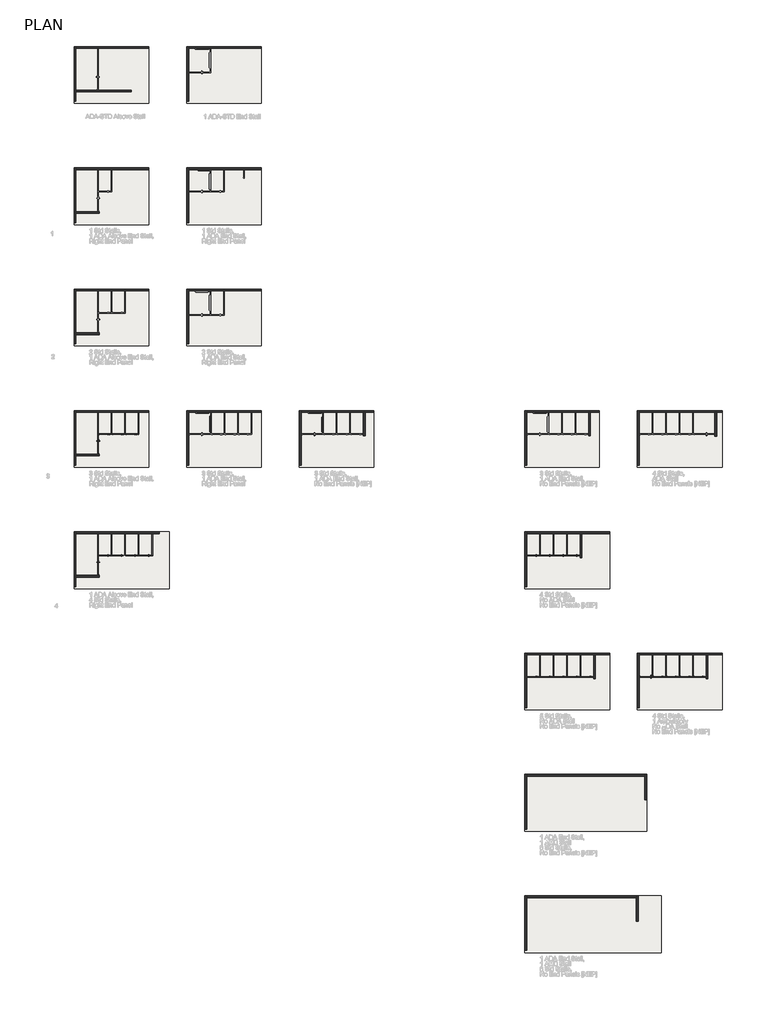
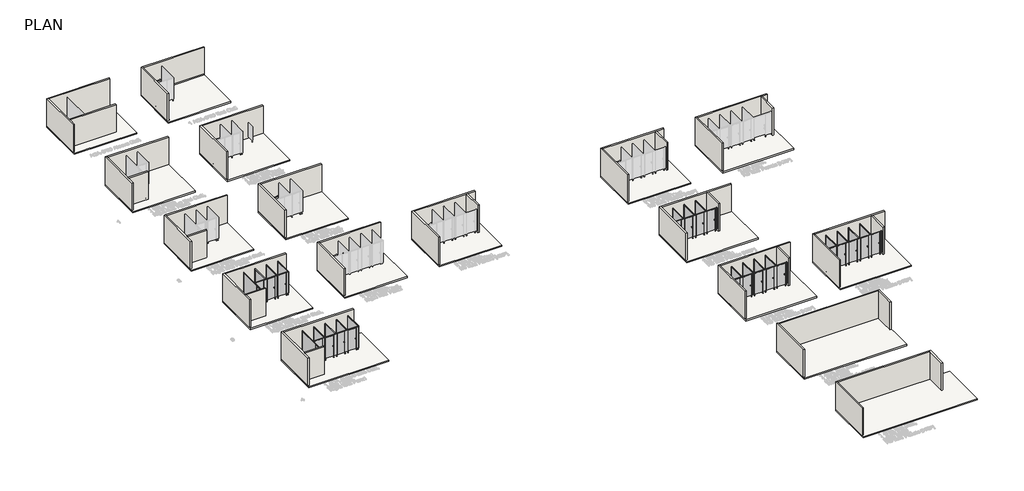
# One storey, part 1 of 21: 48 walls, 17 slabs, 9 proxies.
"""IFC4 building model written with IfcOpenShell, lengths in millimetres."""

from ifc_helpers import new_model, si_unit, frame, origin, origin_with_axes, place, context, project, spatial, polyline, outline, extrude, faceted_brep, transform, mapped, element, save
from components import specialty_equipment_0ea71b72, specialty_equipment_d2a740d9, specialty_equipment_41413af0, specialty_equipment_c0fd9598, specialty_equipment_607a9d4f, specialty_equipment_258c1c85, specialty_equipment_4d244adf, specialty_equipment_7b1527e2, specialty_equipment_daf9b19e, specialty_equipment_9ecc551c, specialty_equipment_231d2768, specialty_equipment_0bc7b9af, specialty_equipment_55b33e95, specialty_equipment_88d71848, specialty_equipment_0e989953, specialty_equipment_0aaabcd9, proxy_812_grab_bars1_cd5c3015, proxy_812_grab_bars1_bdd373ed, proxy_812_grab_bars1_ef4de83a, proxy_812_grab_bars1_6de8e9aa, cove_base_cove_base_009a1cfd

model = new_model("IFC4")

# Units and contexts
model_context = context("Model", 3, world=origin())
ifc_project = project(units=[si_unit("LENGTHUNIT", "METRE", prefix="MILLI")], contexts=[model_context])

# Site, building, storey
site = spatial("IfcSite", under=ifc_project)
building = spatial("IfcBuilding", under=site)
storey = spatial("IfcBuildingStorey", under=building, Name="PLAN", Elevation=0.0)

# Proxies
placement = place(None, origin())
specialty_equipment_shape = specialty_equipment_0ea71b72(model_context)
specialty_equipment_2_shape = specialty_equipment_d2a740d9(model_context)
specialty_equipment_3_shape = specialty_equipment_41413af0(model_context)
specialty_equipment_4_shape = specialty_equipment_c0fd9598(model_context)
element("IfcBuildingElementProxy", 1, Name="Partition_EuroStyle-Bradley_Corp-ADA_Alcove_4StandardStall-LOFT : Partition_EuroStyle-Bradley_Corp-ADA_Alcove_4StandardStall-LOFT", ObjectType="Partition_EuroStyle-Bradley_Corp-ADA_Alcove_4StandardStall-LOFT : Partition_EuroStyle-Bradley_Corp-ADA_Alcove_4StandardStall-LOFT", at=placement, inside=storey, context=model_context, shape_type="MappedRepresentation", body=[
    mapped(specialty_equipment_shape, transform((-22966.7331895, -384.5506848, 0.0), x_axis=(1.0, 0.0, 0.0), y_axis=(0.0, 1.0, 0.0), z_axis=(0.0, 0.0, 1.0))),
    mapped(specialty_equipment_2_shape, transform((-22966.7331895, -384.5506848, 0.0), x_axis=(1.0, 0.0, 0.0), y_axis=(0.0, 1.0, 0.0), z_axis=(0.0, 0.0, 1.0))),
    mapped(specialty_equipment_3_shape, transform((-22966.7331895, -384.5506848, 0.0), x_axis=(1.0, 0.0, 0.0), y_axis=(0.0, 1.0, 0.0), z_axis=(0.0, 0.0, 1.0))),
    mapped(specialty_equipment_4_shape, transform((-22966.7331895, -384.5506848, 0.0), x_axis=(1.0, 0.0, 0.0), y_axis=(0.0, 1.0, 0.0), z_axis=(0.0, 0.0, 1.0))),
])
specialty_equipment_5_shape = specialty_equipment_607a9d4f(model_context)
specialty_equipment_6_shape = specialty_equipment_258c1c85(model_context)
specialty_equipment_7_shape = specialty_equipment_4d244adf(model_context)
element("IfcBuildingElementProxy", 2, Name="Partition_EuroStyle-Bradley_Corp-4StandardStall-NEP-LOFT : Partition_EuroStyle-Bradley_Corp-4StandardStall-NEP-LOFT", ObjectType="Partition_EuroStyle-Bradley_Corp-4StandardStall-NEP-LOFT : Partition_EuroStyle-Bradley_Corp-4StandardStall-NEP-LOFT", at=placement, inside=storey, context=model_context, shape_type="MappedRepresentation", body=[
    mapped(specialty_equipment_5_shape, transform((8859.4668105, -384.5506848, 0.0), x_axis=(1.0, 0.0, 0.0), y_axis=(0.0, 1.0, 0.0), z_axis=(0.0, 0.0, 1.0))),
    mapped(specialty_equipment_6_shape, transform((8859.4668105, -384.5506848, 0.0), x_axis=(1.0, 0.0, 0.0), y_axis=(0.0, 1.0, 0.0), z_axis=(0.0, 0.0, 1.0))),
    mapped(specialty_equipment_7_shape, transform((8859.4668105, -384.5506848, 0.0), x_axis=(1.0, 0.0, 0.0), y_axis=(0.0, 1.0, 0.0), z_axis=(0.0, 0.0, 1.0))),
])
specialty_equipment_8_shape = specialty_equipment_7b1527e2(model_context)
specialty_equipment_9_shape = specialty_equipment_daf9b19e(model_context)
specialty_equipment_10_shape = specialty_equipment_9ecc551c(model_context)
element("IfcBuildingElementProxy", 3, Name="Partition_EuroStyle-Bradley_Corp-ADA_Alcove_3StandardStall-LOFT : Partition_EuroStyle-Bradley_Corp-ADA_Alcove_3StandardStall-LOFT", ObjectType="Partition_EuroStyle-Bradley_Corp-ADA_Alcove_3StandardStall-LOFT : Partition_EuroStyle-Bradley_Corp-ADA_Alcove_3StandardStall-LOFT", at=placement, inside=storey, context=model_context, shape_type="MappedRepresentation", body=[
    mapped(specialty_equipment_8_shape, transform((-22966.7331895, 8149.8493152, 0.0), x_axis=(1.0, 0.0, 0.0), y_axis=(0.0, 1.0, 0.0), z_axis=(0.0, 0.0, 1.0))),
    mapped(specialty_equipment_9_shape, transform((-22966.7331895, 8149.8493152, 0.0), x_axis=(1.0, 0.0, 0.0), y_axis=(0.0, 1.0, 0.0), z_axis=(0.0, 0.0, 1.0))),
    mapped(specialty_equipment_10_shape, transform((-22966.7331895, 8149.8493152, 0.0), x_axis=(1.0, 0.0, 0.0), y_axis=(0.0, 1.0, 0.0), z_axis=(0.0, 0.0, 1.0))),
])
specialty_equipment_11_shape = specialty_equipment_231d2768(model_context)
specialty_equipment_12_shape = specialty_equipment_0bc7b9af(model_context)
specialty_equipment_13_shape = specialty_equipment_55b33e95(model_context)
element("IfcBuildingElementProxy", 4, Name="Partition_EuroStyle-Bradley_Corp-5StandardStall-NEP-LOFT : Partition_EuroStyle-Bradley_Corp-5StandardStall-NEP-LOFT", ObjectType="Partition_EuroStyle-Bradley_Corp-5StandardStall-NEP-LOFT : Partition_EuroStyle-Bradley_Corp-5StandardStall-NEP-LOFT", at=placement, inside=storey, context=model_context, shape_type="MappedRepresentation", body=[
    mapped(specialty_equipment_11_shape, transform((8859.4668105, -8918.9506848, 0.0), x_axis=(1.0, 0.0, 0.0), y_axis=(0.0, 1.0, 0.0), z_axis=(0.0, 0.0, 1.0))),
    mapped(specialty_equipment_12_shape, transform((8859.4668105, -8918.9506848, 0.0), x_axis=(1.0, 0.0, 0.0), y_axis=(0.0, 1.0, 0.0), z_axis=(0.0, 0.0, 1.0))),
    mapped(specialty_equipment_13_shape, transform((8859.4668105, -8918.9506848, 0.0), x_axis=(1.0, 0.0, 0.0), y_axis=(0.0, 1.0, 0.0), z_axis=(0.0, 0.0, 1.0))),
])
specialty_equipment_14_shape = specialty_equipment_88d71848(model_context)
specialty_equipment_15_shape = specialty_equipment_0e989953(model_context)
specialty_equipment_16_shape = specialty_equipment_0aaabcd9(model_context)
element("IfcBuildingElementProxy", 5, Name="Partition_EuroStyle-Bradley_Corp-1AMB-4StandardStall-NEP-LOFT : Partition_EuroStyle-Bradley_Corp-1AMB-4StandardStall-NEP-LOFT", ObjectType="Partition_EuroStyle-Bradley_Corp-1AMB-4StandardStall-NEP-LOFT : Partition_EuroStyle-Bradley_Corp-1AMB-4StandardStall-NEP-LOFT", at=placement, inside=storey, context=model_context, shape_type="MappedRepresentation", body=[
    mapped(specialty_equipment_14_shape, transform((16784.2668105, -8918.9506848, 0.0), x_axis=(1.0, 0.0, 0.0), y_axis=(0.0, 1.0, 0.0), z_axis=(0.0, 0.0, 1.0))),
    mapped(specialty_equipment_15_shape, transform((16784.2668105, -8918.9506848, 0.0), x_axis=(1.0, 0.0, 0.0), y_axis=(0.0, 1.0, 0.0), z_axis=(0.0, 0.0, 1.0))),
    mapped(specialty_equipment_16_shape, transform((16784.2668105, -8918.9506848, 0.0), x_axis=(1.0, 0.0, 0.0), y_axis=(0.0, 1.0, 0.0), z_axis=(0.0, 0.0, 1.0))),
])
proxy_812_grab_bars1_shape = proxy_812_grab_bars1_cd5c3015(model_context)
element("IfcBuildingElementProxy", 6, Name="812_Grab_Bars1 : 8122-001420", ObjectType="812_Grab_Bars1 : 8122-001420", at=placement, inside=storey, context=model_context, shape_type="MappedRepresentation", body=[
    mapped(proxy_812_grab_bars1_shape, transform((-13492.5331895, 7367.2118152, 1431.925), x_axis=(0.0, -1.0, 0.0), y_axis=(0.0, 0.0, 1.0), z_axis=(-1.0, 0.0, 0.0))),
])
proxy_812_grab_bars1_2_shape = proxy_812_grab_bars1_bdd373ed(model_context)
element("IfcBuildingElementProxy", 7, Name="812_Grab_Bars1 : 8122-001180", ObjectType="812_Grab_Bars1 : 8122-001180", at=placement, inside=storey, context=model_context, shape_type="MappedRepresentation", body=[
    mapped(proxy_812_grab_bars1_2_shape, transform((-5593.1331895, 7695.8243152, 1163.6375), x_axis=(0.0, 0.0, 1.0), y_axis=(0.0, 1.0, 0.0), z_axis=(-1.0, 0.0, 0.0))),
])
proxy_812_grab_bars1_3_shape = proxy_812_grab_bars1_ef4de83a(model_context)
element("IfcBuildingElementProxy", 8, Name="812_Grab_Bars1 : 8122-001420", ObjectType="812_Grab_Bars1 : 8122-001420", at=placement, inside=storey, context=model_context, shape_type="MappedRepresentation", body=[
    mapped(proxy_812_grab_bars1_3_shape, transform((-5593.1331895, 7256.0868152, 1431.925), x_axis=(0.0, 1.0, 0.0), y_axis=(0.0, 0.0, -1.0), z_axis=(-1.0, 0.0, 0.0))),
])
proxy_812_grab_bars1_4_shape = proxy_812_grab_bars1_6de8e9aa(model_context)
element("IfcBuildingElementProxy", 9, Name="812_Grab_Bars1 : 8122-001180", ObjectType="812_Grab_Bars1 : 8122-001180", at=placement, inside=storey, context=model_context, shape_type="MappedRepresentation", body=[
    mapped(proxy_812_grab_bars1_4_shape, transform((-13492.5331895, 6785.9253451, 1163.6375), x_axis=(0.0, 0.0, 1.0), y_axis=(0.0, 1.0, 0.0), z_axis=(-1.0, 0.0, 0.0))),
])

# Slabs
element("IfcSlab", 10, ObjectType="LW Concrete on Metal Deck", at=placement, inside=storey, context=model_context, shape_type="SweptSolid", body=[
    extrude(outline(polyline([(-16384.9581895, -260.7256848), (-16384.9581895, -4252.3985382), (-23090.5581895, -4252.3985382), (-23090.5581895, -260.7256848), (-16384.9581895, -260.7256848)])), frame((0.0, 0.0, -104.775), z_axis=(0.0, 0.0, 1.0), x_axis=(1.0, 0.0, 0.0)), (0.0, 0.0, 1.0), 104.775),
])
element("IfcSlab", 11, ObjectType="LW Concrete on Metal Deck", at=placement, inside=storey, context=model_context, shape_type="SweptSolid", body=[
    extrude(outline(polyline([(-17847.8615108, 16808.0743152), (-17847.8615108, 12816.4014618), (-23090.5581895, 12816.4014618), (-23090.5581895, 16808.0743152), (-17847.8615108, 16808.0743152)])), frame((0.0, 0.0, -104.775), z_axis=(0.0, 0.0, 1.0), x_axis=(1.0, 0.0, 0.0)), (0.0, 0.0, 1.0), 104.775),
])
element("IfcSlab", 12, ObjectType="LW Concrete on Metal Deck", at=placement, inside=storey, context=model_context, shape_type="SweptSolid", body=[
    extrude(outline(polyline([(-9923.0615108, 16808.0743152), (-9923.0615108, 12816.4014618), (-15165.7581895, 12816.4014618), (-15165.7581895, 16808.0743152), (-9923.0615108, 16808.0743152)])), frame((0.0, 0.0, -104.775), z_axis=(0.0, 0.0, 1.0), x_axis=(1.0, 0.0, 0.0)), (0.0, 0.0, 1.0), 104.775),
])
element("IfcSlab", 13, ObjectType="LW Concrete on Metal Deck", at=placement, inside=storey, context=model_context, shape_type="SweptSolid", body=[
    extrude(outline(polyline([(-17847.8615108, 8273.6743152), (-17847.8615108, 4282.0014618), (-23090.5581895, 4282.0014618), (-23090.5581895, 8273.6743152), (-17847.8615108, 8273.6743152)])), frame((0.0, 0.0, -104.775), z_axis=(0.0, 0.0, 1.0), x_axis=(1.0, 0.0, 0.0)), (0.0, 0.0, 1.0), 104.775),
])
element("IfcSlab", 14, ObjectType="LW Concrete on Metal Deck", at=placement, inside=storey, context=model_context, shape_type="SweptSolid", body=[
    extrude(outline(polyline([(-9923.0615108, 8273.6743152), (-9923.0615108, 4282.0014618), (-15165.7581895, 4282.0014618), (-15165.7581895, 8273.6743152), (-9923.0615108, 8273.6743152)])), frame((0.0, 0.0, -104.775), z_axis=(0.0, 0.0, 1.0), x_axis=(1.0, 0.0, 0.0)), (0.0, 0.0, 1.0), 104.775),
])
element("IfcSlab", 15, ObjectType="LW Concrete on Metal Deck", at=placement, inside=storey, context=model_context, shape_type="SweptSolid", body=[
    extrude(outline(polyline([(-1998.2615108, 8273.6743152), (-1998.2615108, 4282.0014618), (-7240.9581895, 4282.0014618), (-7240.9581895, 8273.6743152), (-1998.2615108, 8273.6743152)])), frame((0.0, 0.0, -104.775), z_axis=(0.0, 0.0, 1.0), x_axis=(1.0, 0.0, 0.0)), (0.0, 0.0, 1.0), 104.775),
])
element("IfcSlab", 16, ObjectType="LW Concrete on Metal Deck", at=placement, inside=storey, context=model_context, shape_type="SweptSolid", body=[
    extrude(outline(polyline([(-9923.0615108, 25342.4743152), (-9923.0615108, 21350.8014618), (-15165.7581895, 21350.8014618), (-15165.7581895, 25342.4743152), (-9923.0615108, 25342.4743152)])), frame((0.0, 0.0, -104.775), z_axis=(0.0, 0.0, 1.0), x_axis=(1.0, 0.0, 0.0)), (0.0, 0.0, 1.0), 104.775),
])
element("IfcSlab", 17, ObjectType="LW Concrete on Metal Deck", at=placement, inside=storey, context=model_context, shape_type="SweptSolid", body=[
    extrude(outline(polyline([(-17847.8615108, 25342.4743152), (-17847.8615108, 21350.8014618), (-23090.5581895, 21350.8014618), (-23090.5581895, 25342.4743152), (-17847.8615108, 25342.4743152)])), frame((0.0, 0.0, -104.775), z_axis=(0.0, 0.0, 1.0), x_axis=(1.0, 0.0, 0.0)), (0.0, 0.0, 1.0), 104.775),
])
element("IfcSlab", 18, ObjectType="LW Concrete on Metal Deck", at=placement, inside=storey, context=model_context, shape_type="SweptSolid", body=[
    extrude(outline(polyline([(-17847.8615108, 33876.8743152), (-17847.8615108, 29885.2014618), (-23090.5581895, 29885.2014618), (-23090.5581895, 33876.8743152), (-17847.8615108, 33876.8743152)])), frame((0.0, 0.0, -104.775), z_axis=(0.0, 0.0, 1.0), x_axis=(1.0, 0.0, 0.0)), (0.0, 0.0, 1.0), 104.775),
])
element("IfcSlab", 19, ObjectType="LW Concrete on Metal Deck", at=placement, inside=storey, context=model_context, shape_type="SweptSolid", body=[
    extrude(outline(polyline([(14588.7543105, -260.7256848), (14588.7543105, -4252.3985382), (8608.6418105, -4252.3985382), (8608.6418105, -260.7256848), (14588.7543105, -260.7256848)])), frame((0.0, 0.0, -104.775), z_axis=(0.0, 0.0, 1.0), x_axis=(1.0, 0.0, 0.0)), (0.0, 0.0, 1.0), 104.775),
])
element("IfcSlab", 20, ObjectType="LW Concrete on Metal Deck", at=placement, inside=storey, context=model_context, shape_type="SweptSolid", body=[
    extrude(outline(polyline([(-9923.0615108, 33876.8743152), (-9923.0615108, 29885.2014618), (-15165.7581895, 29885.2014618), (-15165.7581895, 33876.8743152), (-9923.0615108, 33876.8743152)])), frame((0.0, 0.0, -104.775), z_axis=(0.0, 0.0, 1.0), x_axis=(1.0, 0.0, 0.0)), (0.0, 0.0, 1.0), 104.775),
])
element("IfcSlab", 21, ObjectType="LW Concrete on Metal Deck", at=placement, inside=storey, context=model_context, shape_type="SweptSolid", body=[
    extrude(outline(polyline([(14588.7543105, -8795.1256848), (14588.7543105, -12786.7985382), (8608.6418105, -12786.7985382), (8608.6418105, -8795.1256848), (14588.7543105, -8795.1256848)])), frame((0.0, 0.0, -104.775), z_axis=(0.0, 0.0, 1.0), x_axis=(1.0, 0.0, 0.0)), (0.0, 0.0, 1.0), 104.775),
])
element("IfcSlab", 22, ObjectType="LW Concrete on Metal Deck", at=placement, inside=storey, context=model_context, shape_type="SweptSolid", body=[
    extrude(outline(polyline([(17185.5324608, -17329.5256848), (17185.5324608, -21321.1985382), (8608.6418105, -21321.1985382), (8608.6418105, -17329.5256848), (17185.5324608, -17329.5256848)])), frame((0.0, 0.0, -104.775), z_axis=(0.0, 0.0, 1.0), x_axis=(1.0, 0.0, 0.0)), (0.0, 0.0, 1.0), 104.775),
])
element("IfcSlab", 23, ObjectType="LW Concrete on Metal Deck", at=placement, inside=storey, context=model_context, shape_type="SweptSolid", body=[
    extrude(outline(polyline([(18209.8418105, -25863.9256848), (18209.8418105, -29855.5985382), (8608.6418105, -29855.5985382), (8608.6418105, -25863.9256848), (18209.8418105, -25863.9256848)])), frame((0.0, 0.0, -104.775), z_axis=(0.0, 0.0, 1.0), x_axis=(1.0, 0.0, 0.0)), (0.0, 0.0, 1.0), 104.775),
])
element("IfcSlab", 24, ObjectType="LW Concrete on Metal Deck", at=placement, inside=storey, context=model_context, shape_type="SweptSolid", body=[
    extrude(outline(polyline([(13851.3384892, 8273.6743152), (13851.3384892, 4282.0014618), (8608.6418105, 4282.0014618), (8608.6418105, 8273.6743152), (13851.3384892, 8273.6743152)])), frame((0.0, 0.0, -104.775), z_axis=(0.0, 0.0, 1.0), x_axis=(1.0, 0.0, 0.0)), (0.0, 0.0, 1.0), 104.775),
])
element("IfcSlab", 25, ObjectType="LW Concrete on Metal Deck", at=placement, inside=storey, context=model_context, shape_type="SweptSolid", body=[
    extrude(outline(polyline([(22513.5543105, -8795.1256848), (22513.5543105, -12786.7985382), (16533.4418105, -12786.7985382), (16533.4418105, -8795.1256848), (22513.5543105, -8795.1256848)])), frame((0.0, 0.0, -104.775), z_axis=(0.0, 0.0, 1.0), x_axis=(1.0, 0.0, 0.0)), (0.0, 0.0, 1.0), 104.775),
])
element("IfcSlab", 26, ObjectType="LW Concrete on Metal Deck", at=placement, inside=storey, context=model_context, shape_type="SweptSolid", body=[
    extrude(outline(polyline([(22513.5543105, 8273.6743152), (22513.5543105, 4282.0014618), (16533.4418105, 4282.0014618), (16533.4418105, 8273.6743152), (22513.5543105, 8273.6743152)])), frame((0.0, 0.0, -104.775), z_axis=(0.0, 0.0, 1.0), x_axis=(1.0, 0.0, 0.0)), (0.0, 0.0, 1.0), 104.775),
])

# Walls
cove_base_cove_base_shape = cove_base_cove_base_009a1cfd(model_context)
element("IfcWall", 27, ObjectType="Cove-Base : Cove-Base", at=placement, inside=storey, context=model_context, shape_type="MappedRepresentation", body=[
    mapped(cove_base_cove_base_shape, transform((0.0, 0.0, 0.0), x_axis=(1.0, 0.0, 0.0), y_axis=(0.0, 1.0, 0.0), z_axis=(0.0, 0.0, 1.0))),
])
element("IfcWall", 28, ObjectType="Interior - 4 7/8\" Partition (1-hr)", at=placement, inside=storey, context=model_context, shape_type="Brep", body=[
    faceted_brep([(-22966.7331895, -4107.2381848, 0.0), (-22966.7331895, -3454.7754197, 0.0), (-22966.7331895, -3330.9504197, 0.0), (-22966.7331895, -384.5506848, 0.0), (-22966.7331895, -260.7256848, 0.0), (-22966.7331895, -260.7256848, 2438.4), (-22966.7331895, -384.5506848, 2438.4), (-22966.7331895, -3330.9504197, 2438.4), (-22966.7331895, -3454.7754197, 2438.4), (-22966.7331895, -4107.2381848, 2438.4), (-23090.5581895, -4107.2381848, 0.0), (-23090.5581895, -4107.2381848, 2438.4), (-23090.5581895, -260.7256848, 2438.4), (-23090.5581895, -260.7256848, 0.0)], [[[0, 1, 2, 3, 4, 5, 6, 7, 8, 9]], [[10, 11, 12, 13]], [[4, 3, 2, 1, 0, 10, 13]], [[9, 8, 7, 6, 5, 12, 11]], [[0, 9, 11, 10]], [[5, 4, 13, 12]]]),
])
element("IfcWall", 29, ObjectType="Interior - 4 7/8\" Partition (1-hr)", at=placement, inside=storey, context=model_context, shape_type="SweptSolid", body=[
    extrude(outline(polyline([(-17110.4456895, -384.5506848), (-22966.7331895, -384.5506848), (-22966.7331895, -260.7256848), (-17110.4456895, -260.7256848), (-17110.4456895, -384.5506848)])), origin_with_axes(), (0.0, 0.0, 1.0), 2438.4),
])
element("IfcWall", 30, ObjectType="Interior - 4 7/8\" Partition (1-hr)", at=placement, inside=storey, context=model_context, shape_type="SweptSolid", body=[
    extrude(outline(polyline([(-22966.7331895, -3330.9504197), (-21336.0258042, -3330.9504197), (-21336.0258042, -3454.7754197), (-22966.7331895, -3454.7754197), (-22966.7331895, -3330.9504197)])), origin_with_axes(), (0.0, 0.0, 1.0), 2438.4),
])
element("IfcWall", 31, ObjectType="Interior - 4 7/8\" Partition (1-hr)", at=placement, inside=storey, context=model_context, shape_type="Brep", body=[
    faceted_brep([(-22966.7331895, 12961.5618152, 0.0), (-22966.7331895, 13614.0245803, 0.0), (-22966.7331895, 13737.8495803, 0.0), (-22966.7331895, 16684.2493152, 0.0), (-22966.7331895, 16808.0743152, 0.0), (-22966.7331895, 16808.0743152, 2438.4), (-22966.7331895, 16684.2493152, 2438.4), (-22966.7331895, 13737.8495803, 2438.4), (-22966.7331895, 13614.0245803, 2438.4), (-22966.7331895, 12961.5618152, 2438.4), (-23090.5581895, 12961.5618152, 0.0), (-23090.5581895, 12961.5618152, 2438.4), (-23090.5581895, 16808.0743152, 2438.4), (-23090.5581895, 16808.0743152, 0.0)], [[[0, 1, 2, 3, 4, 5, 6, 7, 8, 9]], [[10, 11, 12, 13]], [[4, 3, 2, 1, 0, 10, 13]], [[9, 8, 7, 6, 5, 12, 11]], [[0, 9, 11, 10]], [[5, 4, 13, 12]]]),
])
element("IfcWall", 32, ObjectType="Interior - 4 7/8\" Partition (1-hr)", at=placement, inside=storey, context=model_context, shape_type="SweptSolid", body=[
    extrude(outline(polyline([(-17847.8615108, 16684.2493152), (-22966.7331895, 16684.2493152), (-22966.7331895, 16808.0743152), (-17847.8615108, 16808.0743152), (-17847.8615108, 16684.2493152)])), origin_with_axes(), (0.0, 0.0, 1.0), 2438.4),
])
element("IfcWall", 33, ObjectType="Interior - 4 7/8\" Partition (1-hr)", at=placement, inside=storey, context=model_context, shape_type="SweptSolid", body=[
    extrude(outline(polyline([(-22966.7331895, 13737.8495803), (-21336.0258042, 13737.8495803), (-21336.0258042, 13614.0245803), (-22966.7331895, 13614.0245803), (-22966.7331895, 13737.8495803)])), origin_with_axes(), (0.0, 0.0, 1.0), 2438.4),
])
element("IfcWall", 34, ObjectType="Interior - 4 7/8\" Partition (1-hr)", at=placement, inside=storey, context=model_context, shape_type="Brep", body=[
    faceted_brep([(-15041.9331895, 12961.5618152, 0.0), (-15041.9331895, 16684.2493152, 0.0), (-15041.9331895, 16808.0743152, 0.0), (-15041.9331895, 16808.0743152, 2438.4), (-15041.9331895, 16684.2493152, 2438.4), (-15041.9331895, 12961.5618152, 2438.4), (-15165.7581895, 12961.5618152, 0.0), (-15165.7581895, 12961.5618152, 2438.4), (-15165.7581895, 16808.0743152, 2438.4), (-15165.7581895, 16808.0743152, 0.0)], [[[0, 1, 2, 3, 4, 5]], [[6, 7, 8, 9]], [[2, 1, 0, 6, 9]], [[5, 4, 3, 8, 7]], [[0, 5, 7, 6]], [[3, 2, 9, 8]]]),
])
element("IfcWall", 35, ObjectType="Interior - 4 7/8\" Partition (1-hr)", at=placement, inside=storey, context=model_context, shape_type="SweptSolid", body=[
    extrude(outline(polyline([(-9923.0615108, 16684.2493152), (-15041.9331895, 16684.2493152), (-15041.9331895, 16808.0743152), (-9923.0615108, 16808.0743152), (-9923.0615108, 16684.2493152)])), origin_with_axes(), (0.0, 0.0, 1.0), 2438.4),
])
element("IfcWall", 36, ObjectType="Interior - 4 7/8\" Partition (1-hr)", at=placement, inside=storey, context=model_context, shape_type="Brep", body=[
    faceted_brep([(-22966.7331895, 4427.1618152, 0.0), (-22966.7331895, 5079.6245803, 0.0), (-22966.7331895, 5203.4495803, 0.0), (-22966.7331895, 8149.8493152, 0.0), (-22966.7331895, 8273.6743152, 0.0), (-22966.7331895, 8273.6743152, 2438.4), (-22966.7331895, 8149.8493152, 2438.4), (-22966.7331895, 5203.4495803, 2438.4), (-22966.7331895, 5079.6245803, 2438.4), (-22966.7331895, 4427.1618152, 2438.4), (-23090.5581895, 4427.1618152, 0.0), (-23090.5581895, 4427.1618152, 2438.4), (-23090.5581895, 8273.6743152, 2438.4), (-23090.5581895, 8273.6743152, 0.0)], [[[0, 1, 2, 3, 4, 5, 6, 7, 8, 9]], [[10, 11, 12, 13]], [[4, 3, 2, 1, 0, 10, 13]], [[9, 8, 7, 6, 5, 12, 11]], [[0, 9, 11, 10]], [[5, 4, 13, 12]]]),
])
element("IfcWall", 37, ObjectType="Interior - 4 7/8\" Partition (1-hr)", at=placement, inside=storey, context=model_context, shape_type="SweptSolid", body=[
    extrude(outline(polyline([(-17847.8615108, 8149.8493152), (-22966.7331895, 8149.8493152), (-22966.7331895, 8273.6743152), (-17847.8615108, 8273.6743152), (-17847.8615108, 8149.8493152)])), origin_with_axes(), (0.0, 0.0, 1.0), 2438.4),
])
element("IfcWall", 38, ObjectType="Interior - 4 7/8\" Partition (1-hr)", at=placement, inside=storey, context=model_context, shape_type="SweptSolid", body=[
    extrude(outline(polyline([(-22966.7331895, 5203.4495803), (-21336.0258042, 5203.4495803), (-21336.0258042, 5079.6245803), (-22966.7331895, 5079.6245803), (-22966.7331895, 5203.4495803)])), origin_with_axes(), (0.0, 0.0, 1.0), 2438.4),
])
element("IfcWall", 39, ObjectType="Interior - 4 7/8\" Partition (1-hr)", at=placement, inside=storey, context=model_context, shape_type="Brep", body=[
    faceted_brep([(-15041.9331895, 4427.1618152, 0.0), (-15041.9331895, 8149.8493152, 0.0), (-15041.9331895, 8273.6743152, 0.0), (-15041.9331895, 8273.6743152, 2438.4), (-15041.9331895, 8149.8493152, 2438.4), (-15041.9331895, 4427.1618152, 2438.4), (-15165.7581895, 4427.1618152, 0.0), (-15165.7581895, 4427.1618152, 2438.4), (-15165.7581895, 8273.6743152, 2438.4), (-15165.7581895, 8273.6743152, 0.0)], [[[0, 1, 2, 3, 4, 5]], [[6, 7, 8, 9]], [[2, 1, 0, 6, 9]], [[5, 4, 3, 8, 7]], [[0, 5, 7, 6]], [[3, 2, 9, 8]]]),
])
element("IfcWall", 40, ObjectType="Interior - 4 7/8\" Partition (1-hr)", at=placement, inside=storey, context=model_context, shape_type="SweptSolid", body=[
    extrude(outline(polyline([(-9923.0615108, 8149.8493152), (-15041.9331895, 8149.8493152), (-15041.9331895, 8273.6743152), (-9923.0615108, 8273.6743152), (-9923.0615108, 8149.8493152)])), origin_with_axes(), (0.0, 0.0, 1.0), 2438.4),
])
element("IfcWall", 41, ObjectType="Interior - 4 7/8\" Partition (1-hr)", at=placement, inside=storey, context=model_context, shape_type="Brep", body=[
    faceted_brep([(-7117.1331895, 4427.1618152, 0.0), (-7117.1331895, 8149.8493152, 0.0), (-7117.1331895, 8273.6743152, 0.0), (-7117.1331895, 8273.6743152, 2438.4), (-7117.1331895, 8149.8493152, 2438.4), (-7117.1331895, 4427.1618152, 2438.4), (-7240.9581895, 4427.1618152, 0.0), (-7240.9581895, 4427.1618152, 2438.4), (-7240.9581895, 8273.6743152, 2438.4), (-7240.9581895, 8273.6743152, 0.0)], [[[0, 1, 2, 3, 4, 5]], [[6, 7, 8, 9]], [[2, 1, 0, 6, 9]], [[5, 4, 3, 8, 7]], [[0, 5, 7, 6]], [[3, 2, 9, 8]]]),
])
element("IfcWall", 42, ObjectType="Interior - 4 7/8\" Partition (1-hr)", at=placement, inside=storey, context=model_context, shape_type="Brep", body=[
    faceted_brep([(-7117.1331895, 8149.8493152, 0.0), (-2741.9128644, 8149.8493152, 0.0), (-2618.0878644, 8149.8493152, 0.0), (-1998.2615108, 8149.8493152, 0.0), (-1998.2615108, 8149.8493152, 2438.4), (-2618.0878644, 8149.8493152, 2438.4), (-2741.9128644, 8149.8493152, 2438.4), (-7117.1331895, 8149.8493152, 2438.4), (-7117.1331895, 8273.6743152, 0.0), (-7117.1331895, 8273.6743152, 2438.4), (-1998.2615108, 8273.6743152, 2438.4), (-1998.2615108, 8273.6743152, 0.0)], [[[0, 1, 2, 3, 4, 5, 6, 7]], [[8, 9, 10, 11]], [[3, 2, 1, 0, 8, 11]], [[4, 3, 11, 10]], [[7, 6, 5, 4, 10, 9]], [[0, 7, 9, 8]]]),
])
element("IfcWall", 43, ObjectType="Interior - 4 7/8\" Partition (1-hr)", at=placement, inside=storey, context=model_context, shape_type="Brep", body=[
    faceted_brep([(-15041.9331895, 21495.9618152, 0.0), (-15041.9331895, 25218.6493152, 0.0), (-15041.9331895, 25342.4743152, 0.0), (-15041.9331895, 25342.4743152, 2438.4), (-15041.9331895, 25218.6493152, 2438.4), (-15041.9331895, 21495.9618152, 2438.4), (-15165.7581895, 21495.9618152, 0.0), (-15165.7581895, 21495.9618152, 2438.4), (-15165.7581895, 25342.4743152, 2438.4), (-15165.7581895, 25342.4743152, 0.0)], [[[0, 1, 2, 3, 4, 5]], [[6, 7, 8, 9]], [[2, 1, 0, 6, 9]], [[5, 4, 3, 8, 7]], [[0, 5, 7, 6]], [[3, 2, 9, 8]]]),
])
element("IfcWall", 44, ObjectType="Interior - 4 7/8\" Partition (1-hr)", at=placement, inside=storey, context=model_context, shape_type="SweptSolid", body=[
    extrude(outline(polyline([(-9923.0615108, 25218.6493152), (-15041.9331895, 25218.6493152), (-15041.9331895, 25342.4743152), (-9923.0615108, 25342.4743152), (-9923.0615108, 25218.6493152)])), origin_with_axes(), (0.0, 0.0, 1.0), 2438.4),
])
element("IfcWall", 45, ObjectType="Interior - 4 7/8\" Partition (1-hr)", at=placement, inside=storey, context=model_context, shape_type="Brep", body=[
    faceted_brep([(-22966.7331895, 21495.9618152, 0.0), (-22966.7331895, 22148.4245803, 0.0), (-22966.7331895, 22272.2495803, 0.0), (-22966.7331895, 25218.6493152, 0.0), (-22966.7331895, 25342.4743152, 0.0), (-22966.7331895, 25342.4743152, 2438.4), (-22966.7331895, 25218.6493152, 2438.4), (-22966.7331895, 22272.2495803, 2438.4), (-22966.7331895, 22148.4245803, 2438.4), (-22966.7331895, 21495.9618152, 2438.4), (-23090.5581895, 21495.9618152, 0.0), (-23090.5581895, 21495.9618152, 2438.4), (-23090.5581895, 25342.4743152, 2438.4), (-23090.5581895, 25342.4743152, 0.0)], [[[0, 1, 2, 3, 4, 5, 6, 7, 8, 9]], [[10, 11, 12, 13]], [[4, 3, 2, 1, 0, 10, 13]], [[9, 8, 7, 6, 5, 12, 11]], [[0, 9, 11, 10]], [[5, 4, 13, 12]]]),
])
element("IfcWall", 46, ObjectType="Interior - 4 7/8\" Partition (1-hr)", at=placement, inside=storey, context=model_context, shape_type="SweptSolid", body=[
    extrude(outline(polyline([(-17847.8615108, 25218.6493152), (-22966.7331895, 25218.6493152), (-22966.7331895, 25342.4743152), (-17847.8615108, 25342.4743152), (-17847.8615108, 25218.6493152)])), origin_with_axes(), (0.0, 0.0, 1.0), 2438.4),
])
element("IfcWall", 47, ObjectType="Interior - 4 7/8\" Partition (1-hr)", at=placement, inside=storey, context=model_context, shape_type="SweptSolid", body=[
    extrude(outline(polyline([(-22966.7331895, 22272.2495803), (-21336.0258042, 22272.2495803), (-21336.0258042, 22148.4245803), (-22966.7331895, 22148.4245803), (-22966.7331895, 22272.2495803)])), origin_with_axes(), (0.0, 0.0, 1.0), 2438.4),
])
element("IfcWall", 48, ObjectType="Interior - 4 7/8\" Partition (1-hr)", at=placement, inside=storey, context=model_context, shape_type="Brep", body=[
    faceted_brep([(-22966.7331895, 30030.3618152, 0.0), (-22966.7331895, 30682.8245803, 0.0), (-22966.7331895, 30806.6495803, 0.0), (-22966.7331895, 33753.0493152, 0.0), (-22966.7331895, 33876.8743152, 0.0), (-22966.7331895, 33876.8743152, 2438.4), (-22966.7331895, 33753.0493152, 2438.4), (-22966.7331895, 30806.6495803, 2438.4), (-22966.7331895, 30682.8245803, 2438.4), (-22966.7331895, 30030.3618152, 2438.4), (-23090.5581895, 30030.3618152, 0.0), (-23090.5581895, 30030.3618152, 2438.4), (-23090.5581895, 33876.8743152, 2438.4), (-23090.5581895, 33876.8743152, 0.0)], [[[0, 1, 2, 3, 4, 5, 6, 7, 8, 9]], [[10, 11, 12, 13]], [[4, 3, 2, 1, 0, 10, 13]], [[9, 8, 7, 6, 5, 12, 11]], [[0, 9, 11, 10]], [[5, 4, 13, 12]]]),
])
element("IfcWall", 49, ObjectType="Interior - 4 7/8\" Partition (1-hr)", at=placement, inside=storey, context=model_context, shape_type="SweptSolid", body=[
    extrude(outline(polyline([(-17847.8615108, 33753.0493152), (-22966.7331895, 33753.0493152), (-22966.7331895, 33876.8743152), (-17847.8615108, 33876.8743152), (-17847.8615108, 33753.0493152)])), origin_with_axes(), (0.0, 0.0, 1.0), 2438.4),
])
element("IfcWall", 50, ObjectType="Interior - 4 7/8\" Partition (1-hr)", at=placement, inside=storey, context=model_context, shape_type="SweptSolid", body=[
    extrude(outline(polyline([(-22966.7331895, 30806.6495803), (-19091.6456895, 30806.6495803), (-19091.6456895, 30682.8245803), (-22966.7331895, 30682.8245803), (-22966.7331895, 30806.6495803)])), origin_with_axes(), (0.0, 0.0, 1.0), 2438.4),
])
element("IfcWall", 51, ObjectType="Interior - 4 7/8\" Partition (1-hr)", at=placement, inside=storey, context=model_context, shape_type="Brep", body=[
    faceted_brep([(8732.4668105, -4107.2381848, 0.0), (8732.4668105, -384.5506848, 0.0), (8732.4668105, -260.7256848, 0.0), (8732.4668105, -260.7256848, 2438.4), (8732.4668105, -384.5506848, 2438.4), (8732.4668105, -4107.2381848, 2438.4), (8608.6418105, -4107.2381848, 0.0), (8608.6418105, -4107.2381848, 2438.4), (8608.6418105, -260.7256848, 2438.4), (8608.6418105, -260.7256848, 0.0)], [[[0, 1, 2, 3, 4, 5]], [[6, 7, 8, 9]], [[2, 1, 0, 6, 9]], [[5, 4, 3, 8, 7]], [[0, 5, 7, 6]], [[3, 2, 9, 8]]]),
])
element("IfcWall", 52, ObjectType="Interior - 4 7/8\" Partition (1-hr)", at=placement, inside=storey, context=model_context, shape_type="SweptSolid", body=[
    extrude(outline(polyline([(14588.7543105, -384.5506848), (8732.4668105, -384.5506848), (8732.4668105, -260.7256848), (14588.7543105, -260.7256848), (14588.7543105, -384.5506848)])), origin_with_axes(), (0.0, 0.0, 1.0), 2438.4),
])
element("IfcWall", 53, ObjectType="Interior - 4 7/8\" Partition (1-hr)", at=placement, inside=storey, context=model_context, shape_type="SweptSolid", body=[
    extrude(outline(polyline([(-2741.9128644, 6488.849926), (-2741.9128644, 8149.8493152), (-2618.0878644, 8149.8493152), (-2618.0878644, 6488.849926), (-2741.9128644, 6488.849926)])), origin_with_axes(), (0.0, 0.0, 1.0), 2438.4),
])
element("IfcWall", 54, ObjectType="Interior - 4 7/8\" Partition (1-hr)", at=placement, inside=storey, context=model_context, shape_type="Brep", body=[
    faceted_brep([(-15041.9331895, 30030.3618152, 0.0), (-15041.9331895, 33753.0493152, 0.0), (-15041.9331895, 33876.8743152, 0.0), (-15041.9331895, 33876.8743152, 2438.4), (-15041.9331895, 33753.0493152, 2438.4), (-15041.9331895, 30030.3618152, 2438.4), (-15165.7581895, 30030.3618152, 0.0), (-15165.7581895, 30030.3618152, 2438.4), (-15165.7581895, 33876.8743152, 2438.4), (-15165.7581895, 33876.8743152, 0.0)], [[[0, 1, 2, 3, 4, 5]], [[6, 7, 8, 9]], [[2, 1, 0, 6, 9]], [[5, 4, 3, 8, 7]], [[0, 5, 7, 6]], [[3, 2, 9, 8]]]),
])
element("IfcWall", 55, ObjectType="Interior - 4 7/8\" Partition (1-hr)", at=placement, inside=storey, context=model_context, shape_type="SweptSolid", body=[
    extrude(outline(polyline([(-9923.0615108, 33753.0493152), (-15041.9331895, 33753.0493152), (-15041.9331895, 33876.8743152), (-9923.0615108, 33876.8743152), (-9923.0615108, 33753.0493152)])), origin_with_axes(), (0.0, 0.0, 1.0), 2438.4),
])
element("IfcWall", 56, ObjectType="Interior - 4 7/8\" Partition (1-hr)", at=placement, inside=storey, context=model_context, shape_type="SweptSolid", body=[
    extrude(outline(polyline([(12498.0871356, -2070.950074), (12498.0871356, -394.550074), (12621.9121356, -394.550074), (12621.9121356, -2070.950074), (12498.0871356, -2070.950074)])), origin_with_axes(), (0.0, 0.0, 1.0), 2438.4),
])
element("IfcWall", 57, ObjectType="Interior - 4 7/8\" Partition (1-hr)", at=placement, inside=storey, context=model_context, shape_type="Brep", body=[
    faceted_brep([(8732.4668105, -12641.6381848, 0.0), (8732.4668105, -8918.9506848, 0.0), (8732.4668105, -8795.1256848, 0.0), (8732.4668105, -8795.1256848, 2438.4), (8732.4668105, -8918.9506848, 2438.4), (8732.4668105, -12641.6381848, 2438.4), (8608.6418105, -12641.6381848, 0.0), (8608.6418105, -12641.6381848, 2438.4), (8608.6418105, -8795.1256848, 2438.4), (8608.6418105, -8795.1256848, 0.0)], [[[0, 1, 2, 3, 4, 5]], [[6, 7, 8, 9]], [[2, 1, 0, 6, 9]], [[5, 4, 3, 8, 7]], [[0, 5, 7, 6]], [[3, 2, 9, 8]]]),
])
element("IfcWall", 58, ObjectType="Interior - 4 7/8\" Partition (1-hr)", at=placement, inside=storey, context=model_context, shape_type="Brep", body=[
    faceted_brep([(8732.4668105, -8918.9506848, 0.0), (13448.4871356, -8918.9506848, 0.0), (13572.3121356, -8918.9506848, 0.0), (14588.7543105, -8918.9506848, 0.0), (14588.7543105, -8918.9506848, 2438.4), (13572.3121356, -8918.9506848, 2438.4), (13448.4871356, -8918.9506848, 2438.4), (8732.4668105, -8918.9506848, 2438.4), (8732.4668105, -8795.1256848, 0.0), (8732.4668105, -8795.1256848, 2438.4), (14588.7543105, -8795.1256848, 2438.4), (14588.7543105, -8795.1256848, 0.0)], [[[0, 1, 2, 3, 4, 5, 6, 7]], [[8, 9, 10, 11]], [[3, 2, 1, 0, 8, 11]], [[4, 3, 11, 10]], [[7, 6, 5, 4, 10, 9]], [[0, 7, 9, 8]]]),
])
element("IfcWall", 59, ObjectType="Interior - 4 7/8\" Partition (1-hr)", at=placement, inside=storey, context=model_context, shape_type="SweptSolid", body=[
    extrude(outline(polyline([(13448.4871356, -10605.350074), (13448.4871356, -8918.9506848), (13572.3121356, -8918.9506848), (13572.3121356, -10605.350074), (13448.4871356, -10605.350074)])), origin_with_axes(), (0.0, 0.0, 1.0), 2438.4),
])
element("IfcWall", 60, ObjectType="Interior - 4 7/8\" Partition (1-hr)", at=placement, inside=storey, context=model_context, shape_type="Brep", body=[
    faceted_brep([(8732.4668105, -21176.0381848, 0.0), (8732.4668105, -17453.3506848, 0.0), (8732.4668105, -17329.5256848, 0.0), (8732.4668105, -17329.5256848, 2438.4), (8732.4668105, -17453.3506848, 2438.4), (8732.4668105, -21176.0381848, 2438.4), (8608.6418105, -21176.0381848, 0.0), (8608.6418105, -21176.0381848, 2438.4), (8608.6418105, -17329.5256848, 2438.4), (8608.6418105, -17329.5256848, 0.0)], [[[0, 1, 2, 3, 4, 5]], [[6, 7, 8, 9]], [[2, 1, 0, 6, 9]], [[5, 4, 3, 8, 7]], [[0, 5, 7, 6]], [[3, 2, 9, 8]]]),
])
element("IfcWall", 61, ObjectType="Interior - 4 7/8\" Partition (1-hr)", at=placement, inside=storey, context=model_context, shape_type="SweptSolid", body=[
    extrude(outline(polyline([(17061.7074608, -17453.3506848), (8732.4668105, -17453.3506848), (8732.4668105, -17329.5256848), (17061.7074608, -17329.5256848), (17061.7074608, -17453.3506848)])), origin_with_axes(), (0.0, 0.0, 1.0), 2438.4),
])
element("IfcWall", 62, ObjectType="Interior - 4 7/8\" Partition (1-hr)", at=placement, inside=storey, context=model_context, shape_type="Brep", body=[
    faceted_brep([(17061.7074608, -17329.5256848, 0.0), (17061.7074608, -17453.3506848, 0.0), (17061.7074608, -19114.350074, 0.0), (17061.7074608, -19114.350074, 2438.4), (17061.7074608, -17453.3506848, 2438.4), (17061.7074608, -17329.5256848, 2438.4), (17185.5324608, -17329.5256848, 0.0), (17185.5324608, -17329.5256848, 2438.4), (17185.5324608, -19114.350074, 2438.4), (17185.5324608, -19114.350074, 0.0)], [[[0, 1, 2, 3, 4, 5]], [[6, 7, 8, 9]], [[2, 1, 0, 6, 9]], [[3, 2, 9, 8]], [[5, 4, 3, 8, 7]], [[0, 5, 7, 6]]]),
])
element("IfcWall", 63, ObjectType="Interior - 4 7/8\" Partition (1-hr)", at=placement, inside=storey, context=model_context, shape_type="Brep", body=[
    faceted_brep([(8732.4668105, -29710.4381848, 0.0), (8732.4668105, -25987.7506848, 0.0), (8732.4668105, -25863.9256848, 0.0), (8732.4668105, -25863.9256848, 2438.4), (8732.4668105, -25987.7506848, 2438.4), (8732.4668105, -29710.4381848, 2438.4), (8608.6418105, -29710.4381848, 0.0), (8608.6418105, -29710.4381848, 2438.4), (8608.6418105, -25863.9256848, 2438.4), (8608.6418105, -25863.9256848, 0.0)], [[[0, 1, 2, 3, 4, 5]], [[6, 7, 8, 9]], [[2, 1, 0, 6, 9]], [[5, 4, 3, 8, 7]], [[0, 5, 7, 6]], [[3, 2, 9, 8]]]),
])
element("IfcWall", 64, ObjectType="Interior - 4 7/8\" Partition (1-hr)", at=placement, inside=storey, context=model_context, shape_type="SweptSolid", body=[
    extrude(outline(polyline([(16452.1074608, -25987.7506848), (8732.4668105, -25987.7506848), (8732.4668105, -25863.9256848), (16452.1074608, -25863.9256848), (16452.1074608, -25987.7506848)])), origin_with_axes(), (0.0, 0.0, 1.0), 2438.4),
])
element("IfcWall", 65, ObjectType="Interior - 4 7/8\" Partition (1-hr)", at=placement, inside=storey, context=model_context, shape_type="Brep", body=[
    faceted_brep([(16452.1074608, -25863.9256848, 0.0), (16452.1074608, -25987.7506848, 0.0), (16452.1074608, -27648.750074, 0.0), (16452.1074608, -27648.750074, 2438.4), (16452.1074608, -25987.7506848, 2438.4), (16452.1074608, -25863.9256848, 2438.4), (16575.9324608, -25863.9256848, 0.0), (16575.9324608, -25863.9256848, 2438.4), (16575.9324608, -27648.750074, 2438.4), (16575.9324608, -27648.750074, 0.0)], [[[0, 1, 2, 3, 4, 5]], [[6, 7, 8, 9]], [[2, 1, 0, 6, 9]], [[3, 2, 9, 8]], [[5, 4, 3, 8, 7]], [[0, 5, 7, 6]]]),
])
element("IfcWall", 66, ObjectType="Interior - 4 7/8\" Partition (1-hr)", at=placement, inside=storey, context=model_context, shape_type="Brep", body=[
    faceted_brep([(8732.4668105, 4427.1618152, 0.0), (8732.4668105, 8149.8493152, 0.0), (8732.4668105, 8273.6743152, 0.0), (8732.4668105, 8273.6743152, 2438.4), (8732.4668105, 8149.8493152, 2438.4), (8732.4668105, 4427.1618152, 2438.4), (8608.6418105, 4427.1618152, 0.0), (8608.6418105, 4427.1618152, 2438.4), (8608.6418105, 8273.6743152, 2438.4), (8608.6418105, 8273.6743152, 0.0)], [[[0, 1, 2, 3, 4, 5]], [[6, 7, 8, 9]], [[2, 1, 0, 6, 9]], [[5, 4, 3, 8, 7]], [[0, 5, 7, 6]], [[3, 2, 9, 8]]]),
])
element("IfcWall", 67, ObjectType="Interior - 4 7/8\" Partition (1-hr)", at=placement, inside=storey, context=model_context, shape_type="Brep", body=[
    faceted_brep([(8732.4668105, 8149.8493152, 0.0), (13107.6871356, 8149.8493152, 0.0), (13231.5121356, 8149.8493152, 0.0), (13851.3384892, 8149.8493152, 0.0), (13851.3384892, 8149.8493152, 2438.4), (13231.5121356, 8149.8493152, 2438.4), (13107.6871356, 8149.8493152, 2438.4), (8732.4668105, 8149.8493152, 2438.4), (8732.4668105, 8273.6743152, 0.0), (8732.4668105, 8273.6743152, 2438.4), (13851.3384892, 8273.6743152, 2438.4), (13851.3384892, 8273.6743152, 0.0)], [[[0, 1, 2, 3, 4, 5, 6, 7]], [[8, 9, 10, 11]], [[3, 2, 1, 0, 8, 11]], [[4, 3, 11, 10]], [[7, 6, 5, 4, 10, 9]], [[0, 7, 9, 8]]]),
])
element("IfcWall", 68, ObjectType="Interior - 4 7/8\" Partition (1-hr)", at=placement, inside=storey, context=model_context, shape_type="SweptSolid", body=[
    extrude(outline(polyline([(13107.6871356, 6488.849926), (13107.6871356, 8149.8493152), (13231.5121356, 8149.8493152), (13231.5121356, 6488.849926), (13107.6871356, 6488.849926)])), origin_with_axes(), (0.0, 0.0, 1.0), 2438.4),
])
element("IfcWall", 69, ObjectType="Interior - 4 7/8\" Partition (1-hr)", at=placement, inside=storey, context=model_context, shape_type="Brep", body=[
    faceted_brep([(16657.2668105, -12641.6381848, 0.0), (16657.2668105, -8918.9506848, 0.0), (16657.2668105, -8795.1256848, 0.0), (16657.2668105, -8795.1256848, 2438.4), (16657.2668105, -8918.9506848, 2438.4), (16657.2668105, -12641.6381848, 2438.4), (16533.4418105, -12641.6381848, 0.0), (16533.4418105, -12641.6381848, 2438.4), (16533.4418105, -8795.1256848, 2438.4), (16533.4418105, -8795.1256848, 0.0)], [[[0, 1, 2, 3, 4, 5]], [[6, 7, 8, 9]], [[2, 1, 0, 6, 9]], [[5, 4, 3, 8, 7]], [[0, 5, 7, 6]], [[3, 2, 9, 8]]]),
])
element("IfcWall", 70, ObjectType="Interior - 4 7/8\" Partition (1-hr)", at=placement, inside=storey, context=model_context, shape_type="Brep", body=[
    faceted_brep([(16657.2668105, -8918.9506848, 0.0), (21373.2871356, -8918.9506848, 0.0), (21497.1121356, -8918.9506848, 0.0), (22513.5543105, -8918.9506848, 0.0), (22513.5543105, -8918.9506848, 2438.4), (21497.1121356, -8918.9506848, 2438.4), (21373.2871356, -8918.9506848, 2438.4), (16657.2668105, -8918.9506848, 2438.4), (16657.2668105, -8795.1256848, 0.0), (16657.2668105, -8795.1256848, 2438.4), (22513.5543105, -8795.1256848, 2438.4), (22513.5543105, -8795.1256848, 0.0)], [[[0, 1, 2, 3, 4, 5, 6, 7]], [[8, 9, 10, 11]], [[3, 2, 1, 0, 8, 11]], [[4, 3, 11, 10]], [[7, 6, 5, 4, 10, 9]], [[0, 7, 9, 8]]]),
])
element("IfcWall", 71, ObjectType="Interior - 4 7/8\" Partition (1-hr)", at=placement, inside=storey, context=model_context, shape_type="SweptSolid", body=[
    extrude(outline(polyline([(21373.2871356, -10605.350074), (21373.2871356, -8918.9506848), (21497.1121356, -8918.9506848), (21497.1121356, -10605.350074), (21373.2871356, -10605.350074)])), origin_with_axes(), (0.0, 0.0, 1.0), 2438.4),
])
element("IfcWall", 72, ObjectType="Interior - 4 7/8\" Partition (1-hr)", at=placement, inside=storey, context=model_context, shape_type="Brep", body=[
    faceted_brep([(16657.2668105, 4427.1618152, 0.0), (16657.2668105, 8149.8493152, 0.0), (16657.2668105, 8273.6743152, 0.0), (16657.2668105, 8273.6743152, 2438.4), (16657.2668105, 8149.8493152, 2438.4), (16657.2668105, 4427.1618152, 2438.4), (16533.4418105, 4427.1618152, 0.0), (16533.4418105, 4427.1618152, 2438.4), (16533.4418105, 8273.6743152, 2438.4), (16533.4418105, 8273.6743152, 0.0)], [[[0, 1, 2, 3, 4, 5]], [[6, 7, 8, 9]], [[2, 1, 0, 6, 9]], [[5, 4, 3, 8, 7]], [[0, 5, 7, 6]], [[3, 2, 9, 8]]]),
])
element("IfcWall", 73, ObjectType="Interior - 4 7/8\" Partition (1-hr)", at=placement, inside=storey, context=model_context, shape_type="Brep", body=[
    faceted_brep([(16657.2668105, 8149.8493152, 0.0), (21983.7261855, 8149.8493152, 0.0), (22107.5511855, 8149.8493152, 0.0), (22513.5543105, 8149.8493152, 0.0), (22513.5543105, 8149.8493152, 2438.4), (22107.5511855, 8149.8493152, 2438.4), (21983.7261855, 8149.8493152, 2438.4), (16657.2668105, 8149.8493152, 2438.4), (16657.2668105, 8273.6743152, 0.0), (16657.2668105, 8273.6743152, 2438.4), (22513.5543105, 8273.6743152, 2438.4), (22513.5543105, 8273.6743152, 0.0)], [[[0, 1, 2, 3, 4, 5, 6, 7]], [[8, 9, 10, 11]], [[3, 2, 1, 0, 8, 11]], [[4, 3, 11, 10]], [[7, 6, 5, 4, 10, 9]], [[0, 7, 9, 8]]]),
])
element("IfcWall", 74, ObjectType="Interior - 4 7/8\" Partition (1-hr)", at=placement, inside=storey, context=model_context, shape_type="SweptSolid", body=[
    extrude(outline(polyline([(21983.7261855, 6463.449926), (21983.7261855, 8149.8493152), (22107.5511855, 8149.8493152), (22107.5511855, 6463.449926), (21983.7261855, 6463.449926)])), origin_with_axes(), (0.0, 0.0, 1.0), 2438.4),
])

save(model, "model.ifc")
